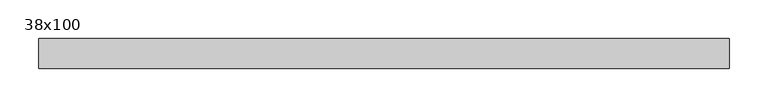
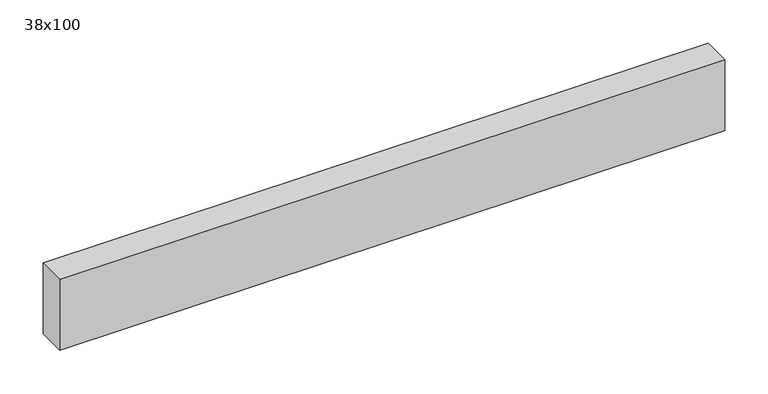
"""IFC4 building model written with IfcOpenShell, lengths in millimetres: beam geometry, Poutre - Bois de construction de dimensions courantes : 38x100."""

from ifc_helpers import new_model, si_unit, frame, origin, place, context, project, spatial, polyline, outline, extrude, source, transform, mapped, element, save


def beam_38x100_1e709e18(model_context):
    return source(origin(), model_context, "Body", "SweptSolid", [
        extrude(outline(polyline([(437.0, 19.05), (437.0, -19.05), (-450.0, -19.05), (-450.0, 19.05), (437.0, 19.05)])), frame((0.0, 0.0, -50.0), z_axis=(0.0, 0.0, 1.0), x_axis=(1.0, 0.0, 0.0)), (0.0, 0.0, 1.0), 100.0),
    ])


if __name__ == "__main__":
    model = new_model("IFC4")
    model_context = context("Model", 3, world=origin())
    ifc_project = project(units=[si_unit("LENGTHUNIT", "METRE", prefix="MILLI")], contexts=[model_context])
    site = spatial("IfcSite", under=ifc_project)
    building = spatial("IfcBuilding", under=site)
    placement = place(None, origin())
    beam_38x100_shape = beam_38x100_1e709e18(model_context)
    element("IfcBeam", 1, ObjectType="Poutre - Bois de construction de dimensions courantes : 38x100", at=placement, inside=building, context=model_context, shape_type="MappedRepresentation", body=[
        mapped(beam_38x100_shape, transform((0.0, 0.0, 0.0), x_axis=(1.0, 0.0, 0.0), y_axis=(0.0, 1.0, 0.0), z_axis=(0.0, 0.0, 1.0))),
    ])
    save(model, "model.ifc")
